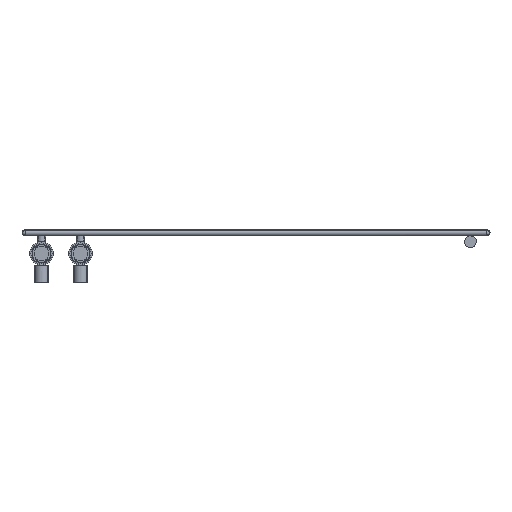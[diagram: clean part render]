
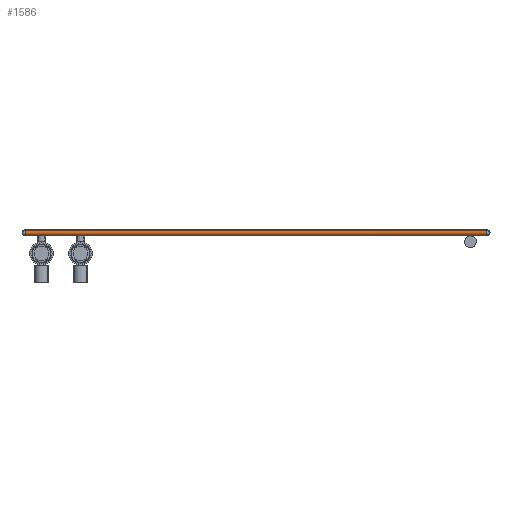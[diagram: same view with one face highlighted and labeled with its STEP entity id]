
A CAD part, front view. The second image highlights one B-rep face of the part: STEP entity #1586.
In plain terms, the highlighted cylindrical face has radius 4 mm (diameter 8 mm), a partial arc.
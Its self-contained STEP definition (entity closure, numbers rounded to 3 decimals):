
#340=LINE('',#3922,#381);
#343=LINE('',#3933,#384);
#381=VECTOR('',#2076,10.);
#384=VECTOR('',#2093,10.);
#482=CIRCLE('',#1766,4.);
#486=CIRCLE('',#1774,4.);
#648=FACE_OUTER_BOUND('',#802,.T.);
#802=EDGE_LOOP('',(#1383,#1384,#1385,#1386));
#988=VERTEX_POINT('',#3905);
#989=VERTEX_POINT('',#3907);
#992=VERTEX_POINT('',#3921);
#993=VERTEX_POINT('',#3925);
#1125=EDGE_CURVE('',#988,#989,#482,.T.);
#1129=EDGE_CURVE('',#989,#992,#340,.T.);
#1134=EDGE_CURVE('',#992,#993,#486,.T.);
#1135=EDGE_CURVE('',#988,#993,#343,.T.);
#1383=ORIENTED_EDGE('',*,*,#1125,.F.);
#1384=ORIENTED_EDGE('',*,*,#1135,.T.);
#1385=ORIENTED_EDGE('',*,*,#1134,.F.);
#1386=ORIENTED_EDGE('',*,*,#1129,.F.);
#1529=CYLINDRICAL_SURFACE('',#1776,4.);
#1586=ADVANCED_FACE('',(#648),#1529,.T.);
#1766=AXIS2_PLACEMENT_3D('',#3913,#2066,#2067);
#1774=AXIS2_PLACEMENT_3D('',#3930,#2087,#2088);
#1776=AXIS2_PLACEMENT_3D('',#3932,#2091,#2092);
#2066=DIRECTION('center_axis',(0.,0.,-1.));
#2067=DIRECTION('ref_axis',(-1.,0.,0.));
#2076=DIRECTION('',(0.,0.,1.));
#2087=DIRECTION('center_axis',(0.,0.,1.));
#2088=DIRECTION('ref_axis',(-1.,0.,0.));
#2091=DIRECTION('center_axis',(0.,0.,1.));
#2092=DIRECTION('ref_axis',(-1.,0.,0.));
#2093=DIRECTION('',(0.,0.,1.));
#3905=CARTESIAN_POINT('',(-31.,-8.,-296.));
#3907=CARTESIAN_POINT('',(-31.,0.,-296.));
#3913=CARTESIAN_POINT('Origin',(-31.,-4.,-296.));
#3921=CARTESIAN_POINT('',(-31.,0.,296.));
#3922=CARTESIAN_POINT('',(-31.,0.,0.));
#3925=CARTESIAN_POINT('',(-31.,-8.,296.));
#3930=CARTESIAN_POINT('Origin',(-31.,-4.,296.));
#3932=CARTESIAN_POINT('Origin',(-31.,-4.,0.));
#3933=CARTESIAN_POINT('',(-31.,-8.,0.));
